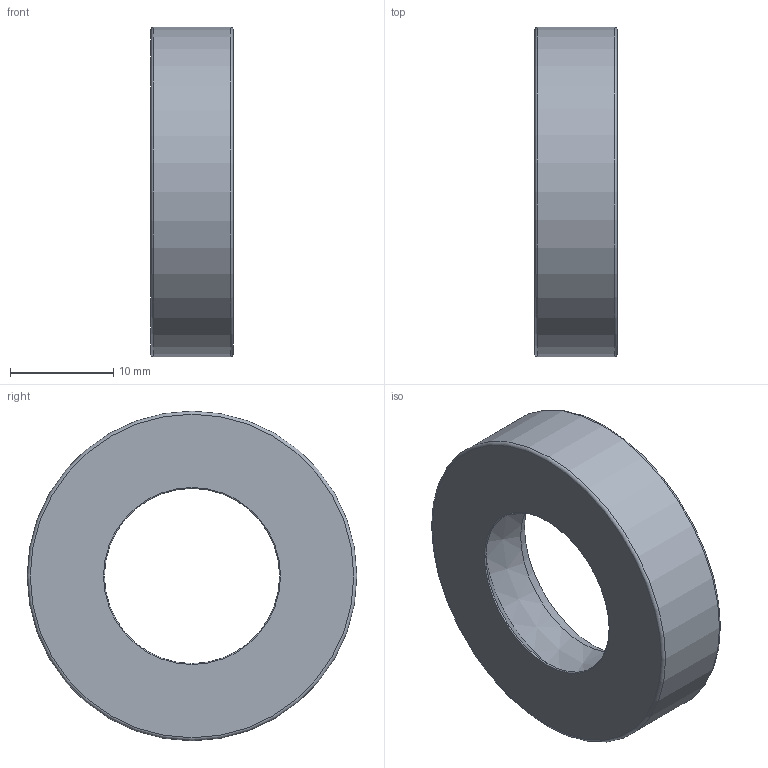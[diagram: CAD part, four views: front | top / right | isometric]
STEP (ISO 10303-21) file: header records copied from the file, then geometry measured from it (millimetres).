
FILE_DESCRIPTION(/* description */ ('오일-실'),/* implementation_level */ '2;1');
FILE_NAME(/* name */ '',/* time_stamp */ '2024-08-02T13:13:28+09:00',/* author */ ('jhkim'),/* organization */ (''),/* preprocessor_version */ 'ST-DEVELOPER v20',/* originating_system */ 'Autodesk Inventor 2025',/* authorisation */ '');
FILE_SCHEMA (('AUTOMOTIVE_DESIGN { 1 0 10303 214 3 1 1 }'));
Length unit declared in the file: millimetre
Products named in the file (1): 오일 실 17 32 8
Bounding box: 8 x 32 x 32 mm (x, y, z)
Volume: 2451.9 mm3; surface area: 3212.2 mm2
Topology: 1 solids, 1 shells, 16 faces, 34 edges, 22 vertices
Faces by surface type: torus 5, plane 4, cone 4, cylinder 3
Full cylindrical faces by diameter (mm): 21.2 x1, 28.5 x1, 32 x1
Entity records: 496 total; most frequent: DIRECTION 95, CARTESIAN_POINT 73, ORIENTED_EDGE 68, AXIS2_PLACEMENT_3D 44, EDGE_CURVE 34, CIRCLE 27, VERTEX_POINT 22, EDGE_LOOP 20
